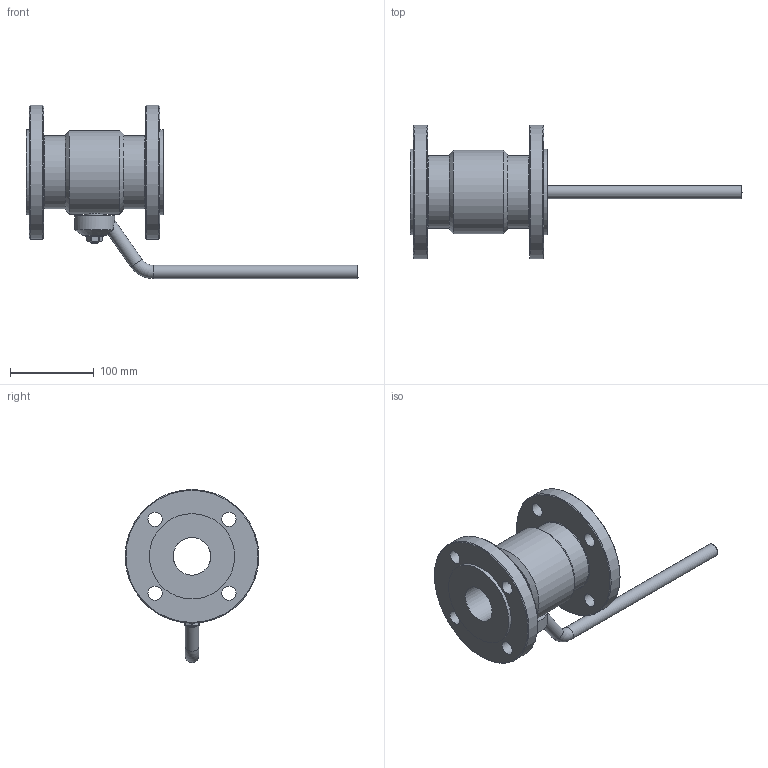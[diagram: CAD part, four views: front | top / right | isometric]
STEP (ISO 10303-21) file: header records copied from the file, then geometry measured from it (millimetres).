
FILE_DESCRIPTION(('STEP AP203'), '1');
FILE_NAME('ZARD 050.016.21.P.stp', '2013-12-06T07:37:22', ('1'), ('1'), 'ASCON STEP Converter 1.3', 'Kompas 3D', '');
FILE_SCHEMA(('CONFIG_CONTROL_DESIGN','SUPPORT_RESOURCE_SCHEMA'));
Length unit declared in the file: millimetre
Products named in the file (1): 163
Bounding box: 397.01 x 160 x 207 mm (x, y, z)
Volume: 1312712 mm3; surface area: 183057.2 mm2
Topology: 1 solids, 8 shells, 166 faces, 367 edges, 231 vertices
Faces by surface type: plane 76, cylinder 59, cone 21, torus 10
Full cylindrical faces by diameter (mm): 6 x2, 10 x2, 16 x3, 17 x8, 21.8 x1, 22 x2, 45 x2, 48 x1, 73.4 x1, 87 x2, 100 x1, 102 x2, 160 x2
Entity records: 6293 total; most frequent: CARTESIAN_POINT 2451, DIRECTION 814, ORIENTED_EDGE 734, EDGE_CURVE 367, AXIS2_PLACEMENT_3D 324, VERTEX_POINT 231, EDGE_LOOP 204, ADVANCED_FACE 166
